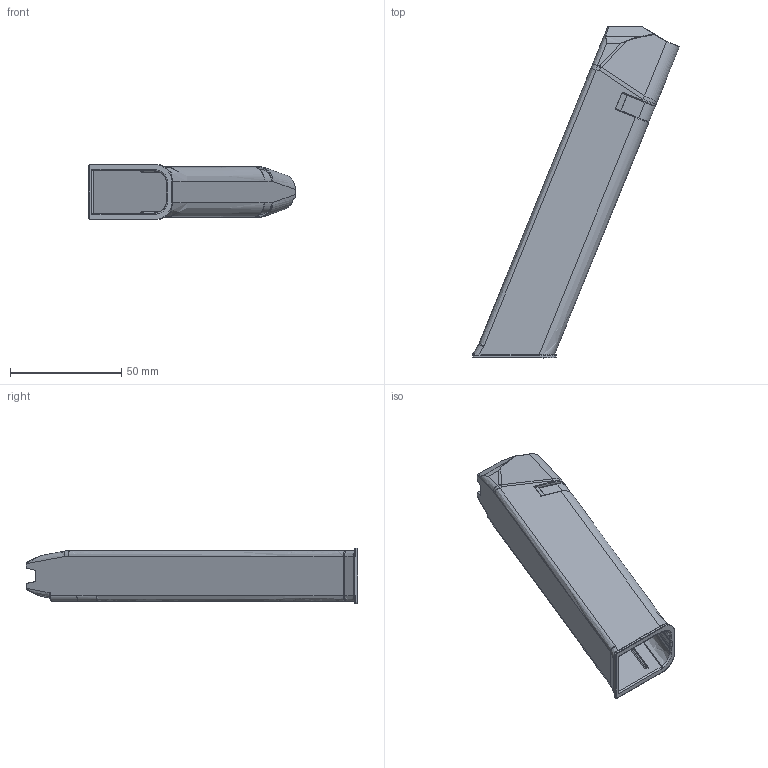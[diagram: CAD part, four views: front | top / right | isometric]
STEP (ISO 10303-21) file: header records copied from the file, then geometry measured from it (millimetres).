
FILE_DESCRIPTION(/* description */ (''),/* implementation_level */ '2;1');
FILE_NAME(/* name */ '/Users/tyler/Desktop/Ambi Extendo Mag/Ambi Extendo Mag.step',/* time_stamp */ '2019-09-29T13:26:15-04:00',/* author */ (''),/* organization */ (''),/* preprocessor_version */ 'ST-DEVELOPER v18',/* originating_system */ 'Autodesk Translation Framework v8.6.0.1094',/* authorisation */ '');
FILE_SCHEMA (('AUTOMOTIVE_DESIGN { 1 0 10303 214 3 1 1 }'));
Length unit declared in the file: millimetre
Products named in the file (1): Menendez Mag Body V1.61 FIX Extendo Copy
Bounding box: 92.76 x 148.94 x 24.87 mm (x, y, z)
Volume: 26755.7 mm3; surface area: 31849.7 mm2
Topology: 1 solids, 8 shells, 599 faces, 1525 edges, 912 vertices
Faces by surface type: bspline 299, cylinder 154, plane 131, torus 8, sphere 7
Entity records: 25147 total; most frequent: CARTESIAN_POINT 12365, ORIENTED_EDGE 2992, DIRECTION 2160, EDGE_CURVE 1496, VERTEX_POINT 912, AXIS2_PLACEMENT_3D 806, EDGE_LOOP 600, FACE_OUTER_BOUND 599
